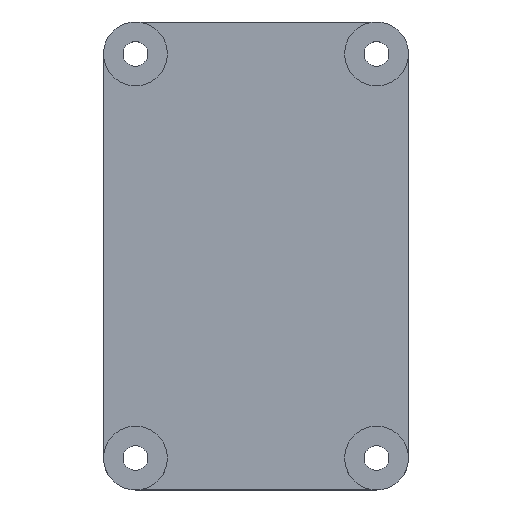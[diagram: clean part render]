
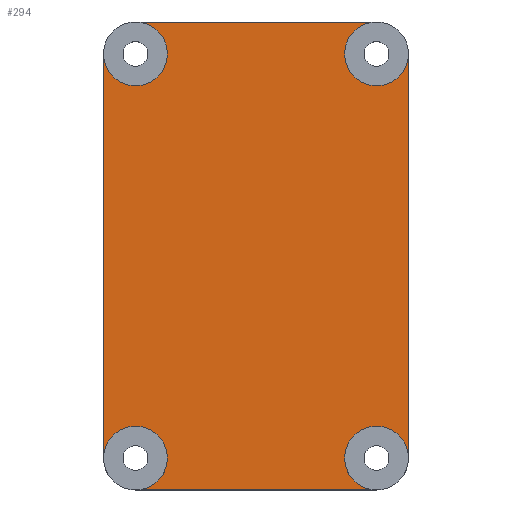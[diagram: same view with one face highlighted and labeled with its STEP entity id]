
A CAD part, top view. The second image highlights one B-rep face of the part: STEP entity #294.
In plain terms, the highlighted planar face has unit normal (0, 0, 1).
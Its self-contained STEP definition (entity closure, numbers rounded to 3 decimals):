
#44=FACE_OUTER_BOUND('',#66,.T.);
#66=EDGE_LOOP('',(#235,#236,#237,#238,#239,#240,#241,#242));
#95=LINE('',#470,#111);
#98=LINE('',#476,#114);
#101=LINE('',#482,#117);
#104=LINE('',#488,#120);
#111=VECTOR('',#373,10.);
#114=VECTOR('',#378,10.);
#117=VECTOR('',#383,10.);
#120=VECTOR('',#388,10.);
#131=CIRCLE('',#323,4.5);
#132=CIRCLE('',#324,4.5);
#133=CIRCLE('',#325,4.5);
#134=CIRCLE('',#326,4.5);
#155=VERTEX_POINT('',#468);
#156=VERTEX_POINT('',#469);
#157=VERTEX_POINT('',#474);
#158=VERTEX_POINT('',#475);
#159=VERTEX_POINT('',#480);
#160=VERTEX_POINT('',#481);
#161=VERTEX_POINT('',#486);
#162=VERTEX_POINT('',#487);
#183=EDGE_CURVE('',#155,#156,#95,.T.);
#186=EDGE_CURVE('',#157,#158,#98,.T.);
#189=EDGE_CURVE('',#159,#160,#101,.T.);
#192=EDGE_CURVE('',#161,#162,#104,.T.);
#195=EDGE_CURVE('',#159,#162,#131,.T.);
#196=EDGE_CURVE('',#161,#156,#132,.T.);
#197=EDGE_CURVE('',#155,#158,#133,.T.);
#198=EDGE_CURVE('',#157,#160,#134,.T.);
#235=ORIENTED_EDGE('',*,*,#195,.T.);
#236=ORIENTED_EDGE('',*,*,#192,.F.);
#237=ORIENTED_EDGE('',*,*,#196,.T.);
#238=ORIENTED_EDGE('',*,*,#183,.F.);
#239=ORIENTED_EDGE('',*,*,#197,.T.);
#240=ORIENTED_EDGE('',*,*,#186,.F.);
#241=ORIENTED_EDGE('',*,*,#198,.T.);
#242=ORIENTED_EDGE('',*,*,#189,.F.);
#284=PLANE('',#322);
#294=ADVANCED_FACE('',(#44),#284,.T.);
#322=AXIS2_PLACEMENT_3D('',#491,#391,#392);
#323=AXIS2_PLACEMENT_3D('',#492,#393,#394);
#324=AXIS2_PLACEMENT_3D('',#493,#395,#396);
#325=AXIS2_PLACEMENT_3D('',#494,#397,#398);
#326=AXIS2_PLACEMENT_3D('',#495,#399,#400);
#373=DIRECTION('',(0.,-1.,0.));
#378=DIRECTION('',(1.,0.,0.));
#383=DIRECTION('',(0.,1.,0.));
#388=DIRECTION('',(-1.,0.,0.));
#391=DIRECTION('center_axis',(0.,0.,1.));
#392=DIRECTION('ref_axis',(1.,0.,0.));
#393=DIRECTION('center_axis',(0.,0.,-1.));
#394=DIRECTION('ref_axis',(-1.,0.,0.));
#395=DIRECTION('center_axis',(0.,0.,-1.));
#396=DIRECTION('ref_axis',(-1.,0.,0.));
#397=DIRECTION('center_axis',(0.,0.,-1.));
#398=DIRECTION('ref_axis',(-1.,0.,0.));
#399=DIRECTION('center_axis',(0.,0.,-1.));
#400=DIRECTION('ref_axis',(-1.,0.,0.));
#468=CARTESIAN_POINT('',(4.5,0.,0.));
#469=CARTESIAN_POINT('',(4.5,-57.,0.));
#470=CARTESIAN_POINT('',(4.5,0.,0.));
#474=CARTESIAN_POINT('',(-34.,4.5,0.));
#475=CARTESIAN_POINT('',(0.,4.5,0.));
#476=CARTESIAN_POINT('',(-34.,4.5,0.));
#480=CARTESIAN_POINT('',(-38.5,-57.,0.));
#481=CARTESIAN_POINT('',(-38.5,0.,0.));
#482=CARTESIAN_POINT('',(-38.5,-57.,0.));
#486=CARTESIAN_POINT('',(0.,-61.5,0.));
#487=CARTESIAN_POINT('',(-34.,-61.5,0.));
#488=CARTESIAN_POINT('',(0.,-61.5,0.));
#491=CARTESIAN_POINT('Origin',(-17.,-28.5,0.));
#492=CARTESIAN_POINT('Origin',(-34.,-57.,0.));
#493=CARTESIAN_POINT('Origin',(0.,-57.,0.));
#494=CARTESIAN_POINT('Origin',(0.,0.,0.));
#495=CARTESIAN_POINT('Origin',(-34.,0.,0.));
